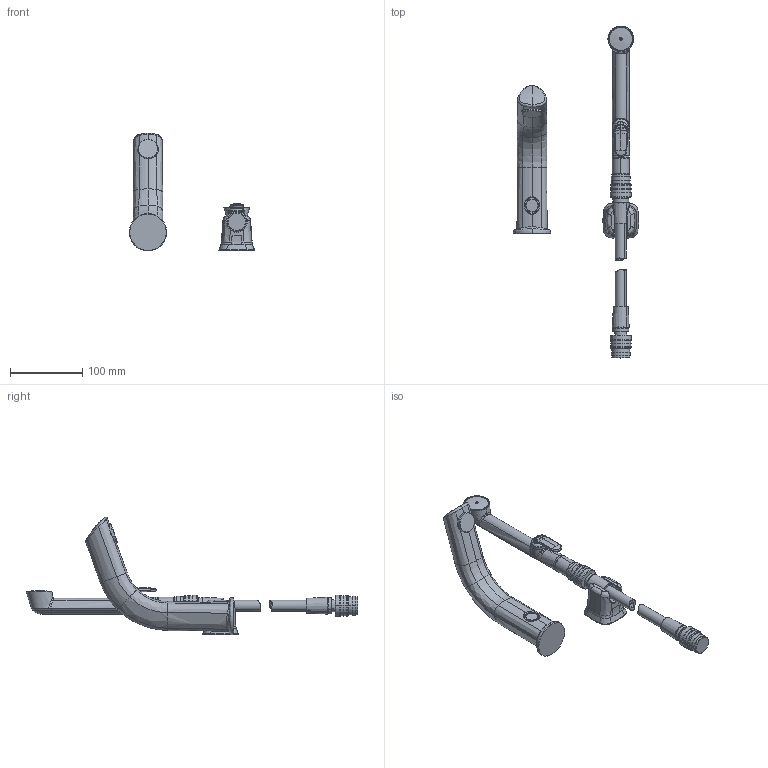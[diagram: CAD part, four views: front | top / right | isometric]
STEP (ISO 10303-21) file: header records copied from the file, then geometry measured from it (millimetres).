
FILE_DESCRIPTION (( 'STEP AP203' ), '1' );
FILE_NAME ('6205MZ(2022).STEP', '2024-12-09T10:55:45', ( '' ), ( '' ), 'SwSTEP 2.0', 'SolidWorks 2024', '' );
FILE_SCHEMA (( 'CONFIG_CONTROL_DESIGN' ));
Products named in the file (1): 6205MZ(2022)
Bounding box: 173.35 x 459.88 x 163 mm (x, y, z)
Volume: 585463.3 mm3; surface area: 108137.2 mm2
Topology: 17 solids, 17 shells, 594 faces, 1365 edges, 847 vertices
Faces by surface type: bspline 275, cylinder 124, plane 77, cone 62, torus 56
Entity records: 79095 total; most frequent: CARTESIAN_POINT 67730, ORIENTED_EDGE 2726, DIRECTION 1851, EDGE_CURVE 1363, VERTEX_POINT 847, AXIS2_PLACEMENT_3D 827, EDGE_LOOP 646, FACE_OUTER_BOUND 594
